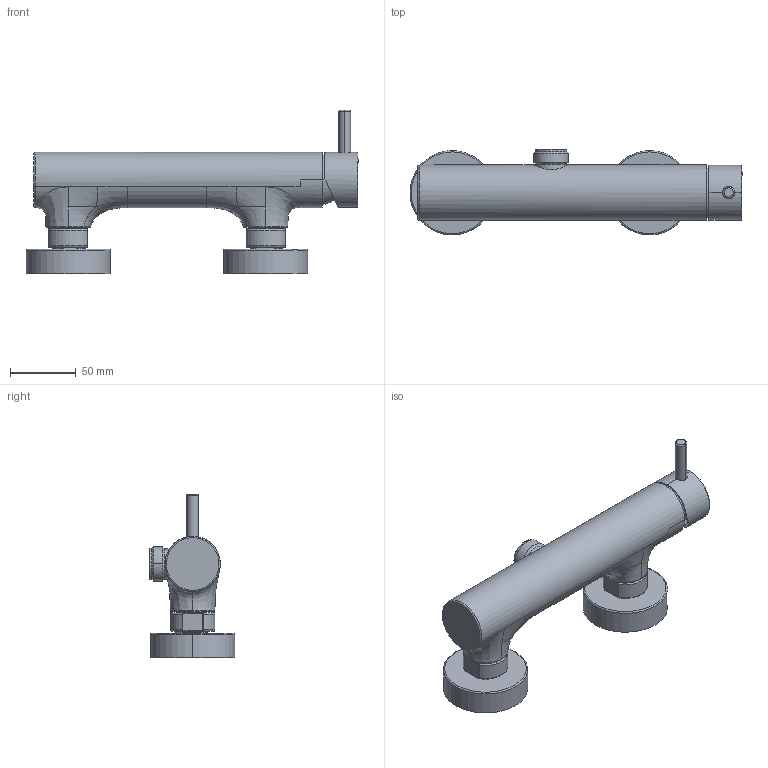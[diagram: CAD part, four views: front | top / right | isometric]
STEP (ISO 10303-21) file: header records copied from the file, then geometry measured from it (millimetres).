
FILE_DESCRIPTION((''),'2;1');
FILE_NAME('12007_SW0001','2025-02-26T15:05:56',('carloff'),(''),'CREO PARAMETRIC BY PTC INC, 2022014','CREO PARAMETRIC BY PTC INC, 2022014','');
FILE_SCHEMA(('CONFIG_CONTROL_DESIGN'));
Length unit declared in the file: millimetre
Products named in the file (1): 12007_SW0001
Bounding box: 252 x 65 x 124.1 mm (x, y, z)
Volume: 517551.3 mm3; surface area: 72499.8 mm2
Topology: 1 solids, 2 shells, 292 faces, 717 edges, 438 vertices
Faces by surface type: plane 94, cylinder 80, bspline 69, cone 27, torus 22
Entity records: 16947 total; most frequent: CARTESIAN_POINT 10465, ORIENTED_EDGE 1426, DIRECTION 1214, EDGE_CURVE 713, AXIS2_PLACEMENT_3D 457, VERTEX_POINT 439, EDGE_LOOP 310, VECTOR 300
